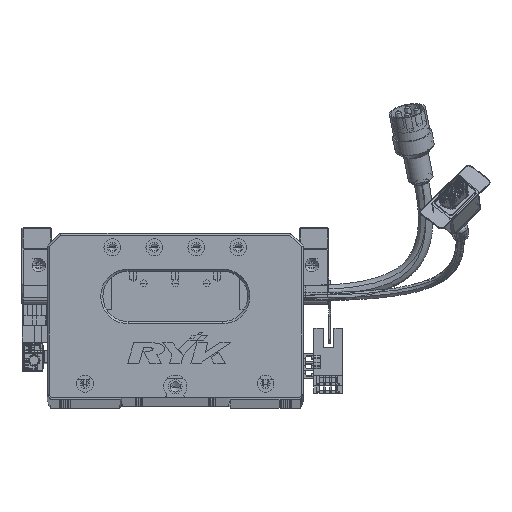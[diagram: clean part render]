
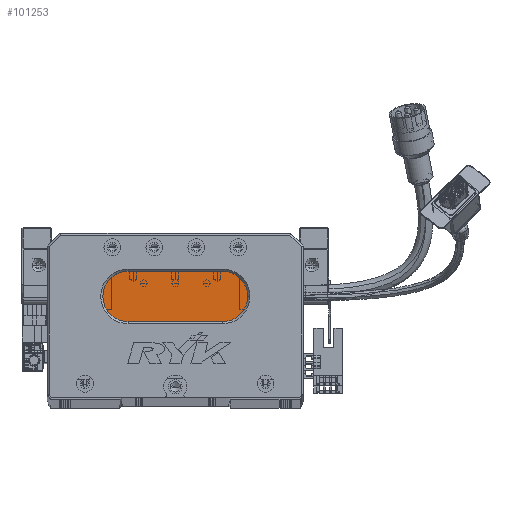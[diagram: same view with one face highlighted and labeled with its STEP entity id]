
A CAD part, top view. The second image highlights one B-rep face of the part: STEP entity #101253.
In plain terms, the highlighted planar face has unit normal (0, 0, 1) as drawn and (0, 0, -1) by its records, which use the part's own axes.
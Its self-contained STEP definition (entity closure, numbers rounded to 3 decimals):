
#979 = CARTESIAN_POINT ( 'NONE',  ( 83.5, 36., 13. ) ) ;
#2214 = DIRECTION ( 'NONE',  ( 0., 0., -1. ) ) ;
#3892 = DIRECTION ( 'NONE',  ( 0., 0., -1. ) ) ;
#4302 = ORIENTED_EDGE ( 'NONE', *, *, #79590, .T. ) ;
#5065 = CARTESIAN_POINT ( 'NONE',  ( 38.5, 48., 13. ) ) ;
#8658 = CIRCLE ( 'NONE', #106849, 12. ) ;
#10078 = DIRECTION ( 'NONE',  ( -1., 0., 0. ) ) ;
#14075 = DIRECTION ( 'NONE',  ( 0., 0., -1. ) ) ;
#17364 = ORIENTED_EDGE ( 'NONE', *, *, #87696, .T. ) ;
#22529 = DIRECTION ( 'NONE',  ( -1., 0., 0. ) ) ;
#24226 = EDGE_CURVE ( 'NONE', #64117, #45198, #8658, .T. ) ;
#24468 = ORIENTED_EDGE ( 'NONE', *, *, #85303, .T. ) ;
#25868 = CARTESIAN_POINT ( 'NONE',  ( 38.5, 36., 13. ) ) ;
#28702 = CARTESIAN_POINT ( 'NONE',  ( 83.5, 60., 13. ) ) ;
#36451 = ORIENTED_EDGE ( 'NONE', *, *, #67931, .T. ) ;
#41805 = CARTESIAN_POINT ( 'NONE',  ( 38.5, 48., 13. ) ) ;
#45198 = VERTEX_POINT ( 'NONE', #47331 ) ;
#46594 = VECTOR ( 'NONE', #10078, 1000. ) ;
#47331 = CARTESIAN_POINT ( 'NONE',  ( 83.5, 36., 13. ) ) ;
#49095 = DIRECTION ( 'NONE',  ( -1., 0., 0. ) ) ;
#50282 = CIRCLE ( 'NONE', #87319, 12. ) ;
#52034 = EDGE_LOOP ( 'NONE', ( #109341, #17364, #4302, #36451, #24468 ) ) ;
#55674 = CARTESIAN_POINT ( 'NONE',  ( 83.5, 60., 13. ) ) ;
#56019 = VERTEX_POINT ( 'NONE', #70602 ) ;
#56287 = AXIS2_PLACEMENT_3D ( 'NONE', #102767, #103932, #49095 ) ;
#57837 = CARTESIAN_POINT ( 'NONE',  ( 38.5, 60., 13. ) ) ;
#59984 = FACE_OUTER_BOUND ( 'NONE', #52034, .T. ) ;
#64117 = VERTEX_POINT ( 'NONE', #28702 ) ;
#67931 = EDGE_CURVE ( 'NONE', #56019, #102706, #50282, .T. ) ;
#70602 = CARTESIAN_POINT ( 'NONE',  ( 26.5, 48., 13. ) ) ;
#74963 = DIRECTION ( 'NONE',  ( 1., 0., 0. ) ) ;
#79590 = EDGE_CURVE ( 'NONE', #102420, #56019, #91974, .T. ) ;
#85303 = EDGE_CURVE ( 'NONE', #102706, #64117, #95322, .T. ) ;
#87319 = AXIS2_PLACEMENT_3D ( 'NONE', #5065, #3892, #22529 ) ;
#87696 = EDGE_CURVE ( 'NONE', #45198, #102420, #114491, .T. ) ;
#91974 = CIRCLE ( 'NONE', #116965, 12. ) ;
#91982 = DIRECTION ( 'NONE',  ( -1., 0., 0. ) ) ;
#93153 = CARTESIAN_POINT ( 'NONE',  ( 83.5, 48., 13. ) ) ;
#93700 = PLANE ( 'NONE',  #56287 ) ;
#95110 = DIRECTION ( 'NONE',  ( -1., 0., 0. ) ) ;
#95322 = LINE ( 'NONE', #55674, #116518 ) ;
#101253 = ADVANCED_FACE ( 'NONE', ( #59984 ), #93700, .T. ) ;
#102420 = VERTEX_POINT ( 'NONE', #25868 ) ;
#102706 = VERTEX_POINT ( 'NONE', #57837 ) ;
#102767 = CARTESIAN_POINT ( 'NONE',  ( 83.5, 48., 13. ) ) ;
#103932 = DIRECTION ( 'NONE',  ( 0., 0., -1. ) ) ;
#106849 = AXIS2_PLACEMENT_3D ( 'NONE', #93153, #2214, #91982 ) ;
#109341 = ORIENTED_EDGE ( 'NONE', *, *, #24226, .T. ) ;
#114491 = LINE ( 'NONE', #979, #46594 ) ;
#116518 = VECTOR ( 'NONE', #74963, 1000. ) ;
#116965 = AXIS2_PLACEMENT_3D ( 'NONE', #41805, #14075, #95110 ) ;
